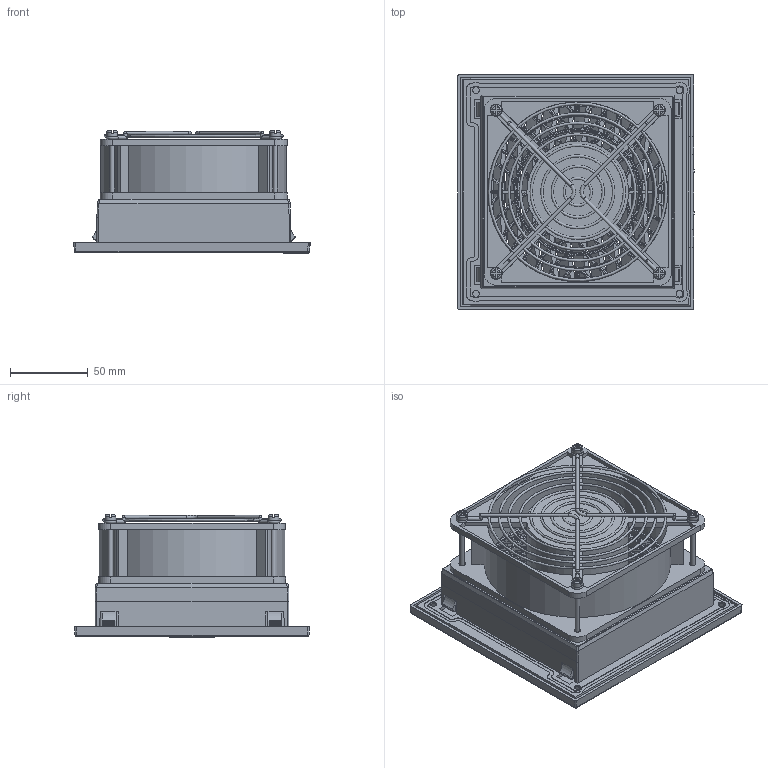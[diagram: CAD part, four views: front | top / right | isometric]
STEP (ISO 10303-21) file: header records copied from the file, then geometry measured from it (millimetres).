
FILE_DESCRIPTION(/* description */ (''),/* implementation_level */ '2;1');
FILE_NAME(/* name */ 'NTL-FCF152+12038-plastic guard （金属）.stp',/* time_stamp */ '2024-11-16T17:24:16+08:00',/* author */ (''),/* organization */ (''),/* preprocessor_version */ 'ST-DEVELOPER v16.7',/* originating_system */ 'SIEMENS PLM Software NX 12.0',/* authorisation */ '');
FILE_SCHEMA (('AUTOMOTIVE_DESIGN { 1 0 10303 214 3 1 1 1 }'));
Products named in the file (1): Admi3A14219C0tmm
Bounding box: 152.3 x 151.39 x 78.8 mm (x, y, z)
Volume: 311227.4 mm3; surface area: 227931.1 mm2
Topology: 8 solids, 8 shells, 3023 faces, 7744 edges, 4636 vertices
Faces by surface type: torus 931, cylinder 725, plane 686, cone 563, bspline 106, sphere 12
Full cylindrical faces by diameter (mm): 2.2 x12, 2.487 x31, 3 x4, 4 x2, 4.2 x8, 4.5 x2, 7 x4, 65.5 x1, 116 x1
Entity records: 112367 total; most frequent: CARTESIAN_POINT 41998, ORIENTED_EDGE 15106, DIRECTION 14383, EDGE_CURVE 7553, AXIS2_PLACEMENT_3D 6077, VERTEX_POINT 4553, EDGE_LOOP 3404, CIRCLE 3075
